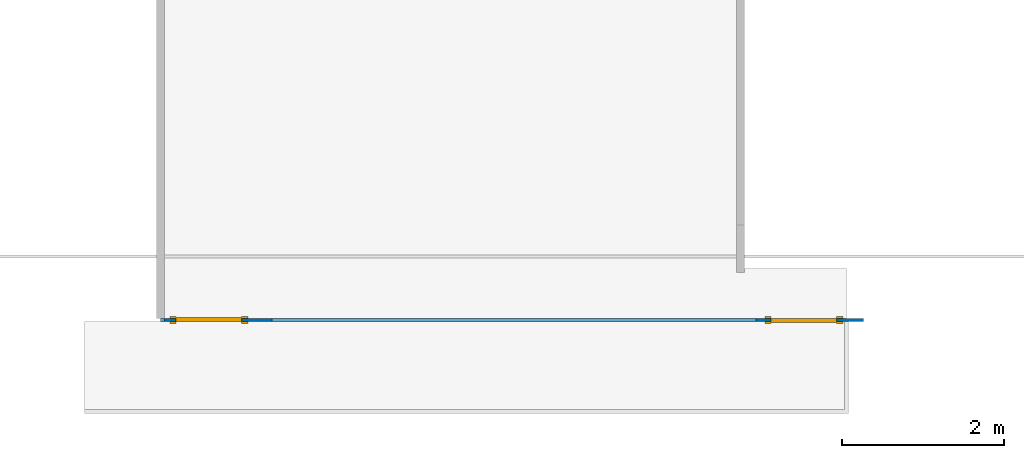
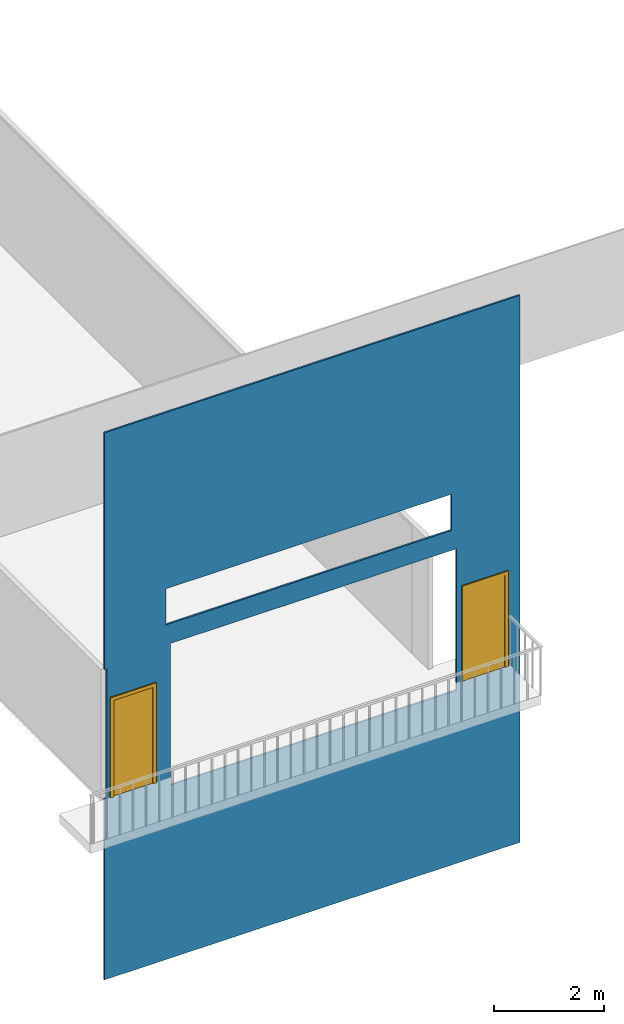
# One storey, part 9 of 14: 2 doors, 1 wall, 2 openings.
"""IFC2X3 building model written with IfcOpenShell, lengths in millimetres."""

from ifc_helpers import new_model, entity, si_unit, converted_unit, derived_unit, direction, frame, frame_2d, origin, origin_2d_with_axis, place, context, subcontext, project, spatial, polyline, rectangle, outline, extrude, faceted_brep, source, transform, mapped, material, material_list, type_object, type_shapes, element, fill, save


model = new_model("IFC2X3")

# Units and contexts
model_context = context("Model", 3, precision=0.01, world=origin(), true_north=direction((4.05803320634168e-15, -1.0)))
body_context = subcontext(model_context, "Body", "Model", "MODEL_VIEW")
ifc_project = project(units=[si_unit("LENGTHUNIT", "METRE", prefix="MILLI"), si_unit("AREAUNIT", "SQUARE_METRE"), si_unit("VOLUMEUNIT", "CUBIC_METRE"), converted_unit("PLANEANGLEUNIT", "DEGREE", entity("IfcRatioMeasure", 0.0174532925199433), si_unit("PLANEANGLEUNIT", "RADIAN"), dimensions=[0, 0, 0, 0, 0, 0, 0]), si_unit("MASSUNIT", "GRAM", prefix="KILO"), derived_unit("MASSDENSITYUNIT", [(si_unit("MASSUNIT", "GRAM", prefix="KILO"), 1), (si_unit("LENGTHUNIT", "METRE"), -3)]), si_unit("TIMEUNIT", "SECOND"), si_unit("FREQUENCYUNIT", "HERTZ"), si_unit("THERMODYNAMICTEMPERATUREUNIT", "DEGREE_CELSIUS"), derived_unit("THERMALTRANSMITTANCEUNIT", [(si_unit("MASSUNIT", "GRAM", prefix="KILO"), 1), (si_unit("THERMODYNAMICTEMPERATUREUNIT", "KELVIN"), -1), (si_unit("TIMEUNIT", "SECOND"), -3)]), derived_unit("VOLUMETRICFLOWRATEUNIT", [(si_unit("LENGTHUNIT", "METRE"), 3), (si_unit("TIMEUNIT", "SECOND"), -1)]), si_unit("ELECTRICCURRENTUNIT", "AMPERE"), si_unit("ELECTRICVOLTAGEUNIT", "VOLT"), si_unit("POWERUNIT", "WATT"), si_unit("FORCEUNIT", "NEWTON", prefix="KILO"), si_unit("ILLUMINANCEUNIT", "LUX"), si_unit("LUMINOUSFLUXUNIT", "LUMEN"), si_unit("LUMINOUSINTENSITYUNIT", "CANDELA"), derived_unit("USERDEFINED", [(si_unit("MASSUNIT", "GRAM", prefix="KILO"), -1), (si_unit("LENGTHUNIT", "METRE"), -2), (si_unit("TIMEUNIT", "SECOND"), 3), (si_unit("LUMINOUSFLUXUNIT", "LUMEN"), 1)]), derived_unit("LINEARVELOCITYUNIT", [(si_unit("LENGTHUNIT", "METRE"), 1), (si_unit("TIMEUNIT", "SECOND"), -1)]), si_unit("PRESSUREUNIT", "PASCAL"), derived_unit("USERDEFINED", [(si_unit("LENGTHUNIT", "METRE"), -2), (si_unit("MASSUNIT", "GRAM", prefix="KILO"), 1), (si_unit("TIMEUNIT", "SECOND"), -2)])], contexts=[model_context])

# Site, building, storey
site_placement = place(None, frame((927466.849349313, 583801.882853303, 0.0), z_axis=(0.0, 0.0, 1.0), x_axis=(-1.0, 0.0, 0.0)))
site = spatial("IfcSite", under=ifc_project, at=site_placement, Name="Surface", CompositionType="ELEMENT")
building_placement = place(site_placement, origin())
building = spatial("IfcBuilding", under=site, at=building_placement, CompositionType="ELEMENT")
storey_placement = place(building_placement, frame((0.0, 0.0, 48170.0)))
storey = spatial("IfcBuildingStorey", under=building, at=storey_placement, Name="First floor", CompositionType="ELEMENT", Elevation=48170.0)

# Wall, openings, doors
ifc_material_1 = material(Name="Aluminum, Anodized Silver")
wall_type = type_object("IfcWallType", Name="Basic Wall:Orange", PredefinedType="NOTDEFINED")
wall_placement = place(storey_placement, frame((-118610.400715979, 37047.2777512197, -4000.0)))
wall = element("IfcWall", 1, at=wall_placement, inside=storey, type_object=wall_type, material=ifc_material_1, Name="Basic Wall:Orange", ObjectType="Basic Wall:Orange", context=body_context, shape_type="Brep", body=[
    faceted_brep([(8692.5287711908, -19.0, 12097.1066036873), (0.0, -19.0, 12097.1066036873), (0.0, -19.0, 0.0), (8692.5287711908, -19.0, 0.0), (8692.5287711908, -19.0, 4000.0), (8642.52877119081, -19.0, 4000.0), (8642.52877119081, -19.0, 6859.35796848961), (8692.5287711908, -19.0, 6859.35796848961), (8502.52877119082, -19.0, 4000.0), (7689.52877119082, -19.0, 4000.0), (7689.52877119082, -19.0, 6134.0), (8502.52877119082, -19.0, 6134.0), (7312.5287711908, -19.0, 3824.69618273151), (1330.0, -19.0, 3824.69618273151), (1330.0, -19.0, 6958.47490219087), (7312.5287711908, -19.0, 6958.47490219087), (7408.56002327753, -19.0, 7400.0), (1430.0, -19.0, 7400.0), (1430.0, -19.0, 8200.0), (7408.56002327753, -19.0, 8200.0), (1143.0, -19.0, 4000.0), (330.0, -19.0, 4000.0), (330.0, -19.0, 6030.0), (1143.0, -19.0, 6030.0), (7312.5287711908, 19.0, 3824.69618273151), (7312.5287711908, 19.0, 6958.47490219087), (1330.0, 19.0, 6958.47490219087), (1330.0, 19.0, 3824.69618273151), (8502.52877119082, 19.0, 4000.0), (8502.52877119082, 19.0, 6134.0), (7689.52877119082, 19.0, 6134.0), (7689.52877119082, 19.0, 4000.0), (8692.5287711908, 19.0, 12097.1066036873), (8692.5287711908, 19.0, 6859.35796848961), (8642.52877119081, 19.0, 6859.35796848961), (8642.52877119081, 19.0, 4000.0), (8692.5287711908, 19.0, 4000.0), (8692.5287711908, 19.0, 0.0), (0.0, 19.0, 0.0), (0.0, 19.0, 12097.1066036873), (7408.56002327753, 19.0, 7400.0), (7408.56002327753, 19.0, 8200.0), (1430.0, 19.0, 8200.0), (1430.0, 19.0, 7400.0), (1143.0, 19.0, 4000.0), (1143.0, 19.0, 6030.0), (330.0, 19.0, 6030.0), (330.0, 19.0, 4000.0), (0.0, 17.8076615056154, 0.0), (8692.5287711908, 17.8076615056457, 0.0), (8692.5287711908, 17.8076615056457, 4000.0), (8642.52877119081, 17.8076615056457, 4000.0), (8692.5287711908, 17.8076615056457, 6859.35796848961), (8642.52877119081, 17.8076615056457, 6859.35796848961), (7408.56002327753, 17.8076615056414, 7400.0), (1430.0, 17.8076615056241, 7400.0), (1430.0, 17.8076615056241, 8200.0), (7408.56002327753, 17.8076615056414, 8200.0)], [[[0, 1, 2, 3, 4, 5, 6, 7], [8, 9, 10, 11], [12, 13, 14, 15], [16, 17, 18, 19], [20, 21, 22, 23]], [[24, 25, 26, 27], [28, 29, 30, 31], [32, 33, 34, 35, 36, 37, 38, 39], [40, 41, 42, 43], [44, 45, 46, 47]], [[9, 8, 28, 31]], [[10, 9, 31, 30]], [[11, 10, 30, 29]], [[8, 11, 29, 28]], [[1, 0, 32, 39]], [[12, 15, 25, 24]], [[13, 12, 24, 27]], [[14, 13, 27, 26]], [[15, 14, 26, 25]], [[2, 1, 39, 38, 48]], [[3, 2, 48, 38, 37, 49]], [[4, 3, 49, 37, 36, 50]], [[35, 51, 5, 4, 50, 36]], [[0, 7, 52, 33, 32]], [[33, 52, 7, 6, 53, 34]], [[6, 5, 51, 35, 34, 53]], [[17, 16, 54, 40, 43, 55]], [[18, 17, 55, 43, 42, 56]], [[19, 18, 56, 42, 41, 57]], [[16, 19, 57, 41, 40, 54]], [[21, 20, 44, 47]], [[22, 21, 47, 46]], [[23, 22, 46, 45]], [[20, 23, 45, 44]]], outer=[[True, False, False, False, False], [False, False, True, False, False], [True], [True], [True], [True], [True], [True], [True], [True], [True], [True], [True], [True], [True], [True], [True], [True], [True], [True], [True], [True], [True], [True], [True], [True]]),
])
opening_1_placement = place(wall_placement, frame((7689.52877119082, -19.0, 4000.0)))
opening_1 = element("IfcOpeningElement", 2, at=opening_1_placement, cuts=wall, Name="M_Single-Flush:0813 x 2134mm:1", ObjectType="Opening", context=body_context, shape_type="SweptSolid", body=[
    extrude(rectangle(XDim=813.0, YDim=2134.0, at=frame_2d((1067.0, 406.500000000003), x_axis=(0.0, -1.0))), frame((0.0, 0.0, 0.0), z_axis=(0.0, 1.0, 0.0), x_axis=(0.0, 0.0, 1.0)), (0.0, 0.0, 1.0), 38.0),
])
opening_2_placement = place(wall_placement, frame((1143.0, 19.0, 4000.0)))
opening_2 = element("IfcOpeningElement", 3, at=opening_2_placement, cuts=wall, Name="M_Single-Flush:813 x 2030mm:1", ObjectType="Opening", context=body_context, shape_type="SweptSolid", body=[
    extrude(rectangle(XDim=813.0, YDim=2030.0, at=frame_2d((1015.0, 406.500000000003), x_axis=(0.0, 1.0))), frame((0.0, 0.0, 0.0), z_axis=(0.0, -1.0, 0.0), x_axis=(0.0, 0.0, 1.0)), (0.0, 0.0, 1.0), 38.0),
])
ifc_material_2 = material(Name="Door - Frame")
ifc_material_3 = material(Name="Door - Panel")
ifc_material_list_1 = material_list([ifc_material_2, ifc_material_3])
ifc_material_list_2 = material_list([ifc_material_2, ifc_material_3])
door_style_1 = type_object("IfcDoorStyle", Name="0813 x 2134mm", ConstructionType="NOTDEFINED", OperationType="SINGLE_SWING_LEFT", ParameterTakesPrecedence=False, Sizeable=False, material=ifc_material_list_2)
shared_shape_1 = source(origin(), body_context, "Body", "SweptSolid", [
    extrude(outline(polyline([(-482.5, -1124.0), (482.5, -1124.0), (482.5, 1086.0), (406.5, 1086.0), (406.5, -1048.0), (-406.5, -1048.0), (-406.5, 1086.0), (-482.5, 1086.0), (-482.5, -1124.0)])), frame((406.5, 63.0, 1086.0), z_axis=(0.0, -1.0, 0.0), x_axis=(-1.0, 0.0, 0.0)), (0.0, 0.0, 1.0), 24.9999999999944),
    extrude(outline(polyline([(-1124.0, -482.499999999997), (1086.0, -482.499999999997), (1086.0, -406.500000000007), (-1048.0, -406.500000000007), (-1048.0, 406.500000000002), (1086.0, 406.500000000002), (1086.0, 482.500000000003), (-1124.0, 482.500000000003), (-1124.0, -482.499999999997)])), frame((406.499999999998, 0.0, 1086.0), z_axis=(0.0, -1.0, 0.0), x_axis=(0.0, 0.0, -1.0)), (0.0, 0.0, 1.0), 25.0000000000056),
    extrude(rectangle(XDim=813.0, YDim=51.0, at=frame_2d((0.0, -3.5527136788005e-15), x_axis=(1.0, 0.0))), frame((406.500000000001, 12.4999999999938, 0.0)), (0.0, 0.0, 1.0), 2134.0),
])
type_shapes(door_style_1, [shared_shape_1])
door_1_placement = place(opening_1_placement, origin())
door_1 = element("IfcDoor", 4, at=door_1_placement, inside=storey, type_object=door_style_1, material=ifc_material_list_1, Name="M_Single-Flush:0813 x 2134mm", ObjectType="0813 x 2134mm", OverallHeight=2134.0, OverallWidth=813.000000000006, context=body_context, shape_type="MappedRepresentation", body=[
    mapped(shared_shape_1, transform((0.0, 0.0, 0.0), scale=1.0)),
])
fill(opening_1, door_1)
ifc_material_list_3 = material_list([ifc_material_2, ifc_material_3])
ifc_material_list_4 = material_list([ifc_material_2, ifc_material_3])
door_style_2 = type_object("IfcDoorStyle", Name="813 x 2030mm", ConstructionType="NOTDEFINED", OperationType="SINGLE_SWING_RIGHT", ParameterTakesPrecedence=False, Sizeable=False, material=ifc_material_list_4)
shared_shape_2 = source(origin(), body_context, "Body", "SweptSolid", [
    extrude(outline(polyline([(-482.5, -1072.0), (482.5, -1072.0), (482.5, 1034.0), (406.5, 1034.0), (406.5, -996.0), (-406.5, -996.0), (-406.5, 1034.0), (-482.5, 1034.0), (-482.5, -1072.0)])), frame((406.500000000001, 38.0, 1034.0), z_axis=(0.0, 1.0, 0.0), x_axis=(1.0, 0.0, 0.0)), (0.0, 0.0, 1.0), 24.9999999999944),
    extrude(outline(polyline([(-1072.0, -482.499999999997), (1034.0, -482.499999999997), (1034.0, -406.500000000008), (-996.0, -406.500000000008), (-996.0, 406.500000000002), (1034.0, 406.500000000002), (1034.0, 482.500000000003), (-1072.0, 482.500000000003), (-1072.0, -482.499999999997)])), frame((406.500000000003, -25.0, 1034.0), z_axis=(0.0, 1.0, 0.0), x_axis=(0.0, 0.0, -1.0)), (0.0, 0.0, 1.0), 25.0000000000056),
    extrude(rectangle(XDim=51.0, YDim=813.0, at=origin_2d_with_axis()), frame((406.500000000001, 12.5000000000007, 0.0), z_axis=(0.0, 0.0, 1.0), x_axis=(0.0, 1.0, 0.0)), (0.0, 0.0, 1.0), 2030.0),
])
type_shapes(door_style_2, [shared_shape_2])
door_2_placement = place(opening_2_placement, frame((0.0, 0.0, 0.0), z_axis=(0.0, 0.0, 1.0), x_axis=(-1.0, 0.0, 0.0)))
door_2 = element("IfcDoor", 5, at=door_2_placement, inside=storey, type_object=door_style_2, material=ifc_material_list_3, Name="M_Single-Flush:813 x 2030mm", ObjectType="813 x 2030mm", OverallHeight=2030.0, OverallWidth=813.000000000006, context=body_context, shape_type="MappedRepresentation", body=[
    mapped(shared_shape_2, transform((0.0, 0.0, 0.0), scale=1.0)),
])
fill(opening_2, door_2)

save(model, "model.ifc")
